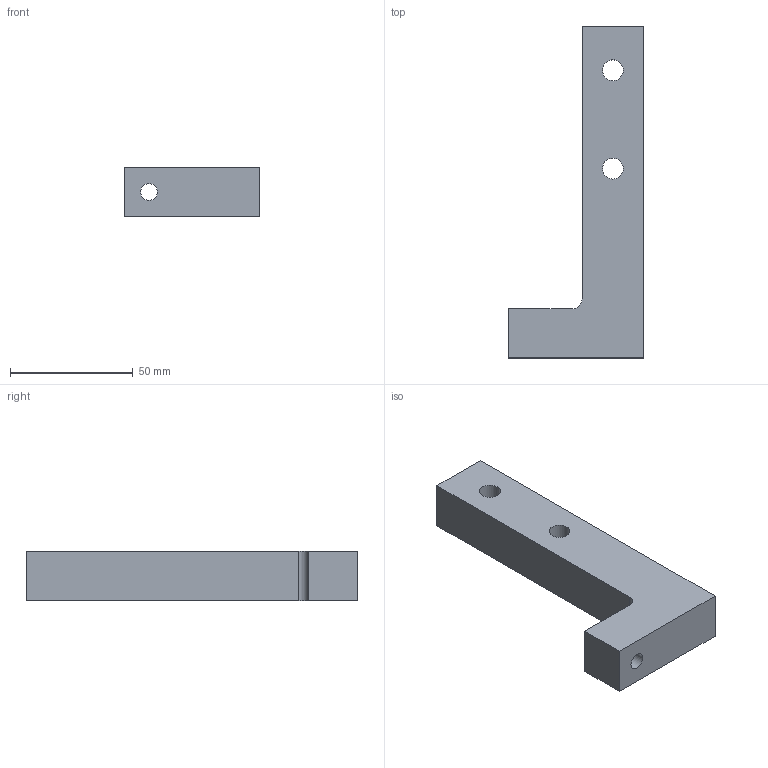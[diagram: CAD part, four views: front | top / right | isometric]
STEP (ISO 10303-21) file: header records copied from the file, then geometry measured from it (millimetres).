
FILE_DESCRIPTION(/* description */ (''),/* implementation_level */ '2;1');
FILE_NAME(/* name */ '036_stampella.stp',/* time_stamp */ '2020-01-08T14:54:03+01:00',/* author */ (''),/* organization */ (''),/* preprocessor_version */ 'ST-DEVELOPER v16.7',/* originating_system */ 'SIEMENS PLM Software NX 12.0',/* authorisation */ '');
FILE_SCHEMA (('AUTOMOTIVE_DESIGN { 1 0 10303 214 3 1 1 1 }'));
Length unit declared in the file: millimetre
Products named in the file (1): bez2C70411Cqd08
Bounding box: 55 x 135 x 20 mm (x, y, z)
Volume: 76572.5 mm3; surface area: 16718.3 mm2
Topology: 1 solids, 1 shells, 12 faces, 31 edges, 21 vertices
Faces by surface type: plane 8, cylinder 4
Full cylindrical faces by diameter (mm): 6.8 x1, 8.5 x2
Entity records: 391 total; most frequent: DIRECTION 61, CARTESIAN_POINT 60, ORIENTED_EDGE 54, EDGE_CURVE 27, EDGE_LOOP 21, AXIS2_PLACEMENT_3D 21, VERTEX_POINT 20, LINE 19
